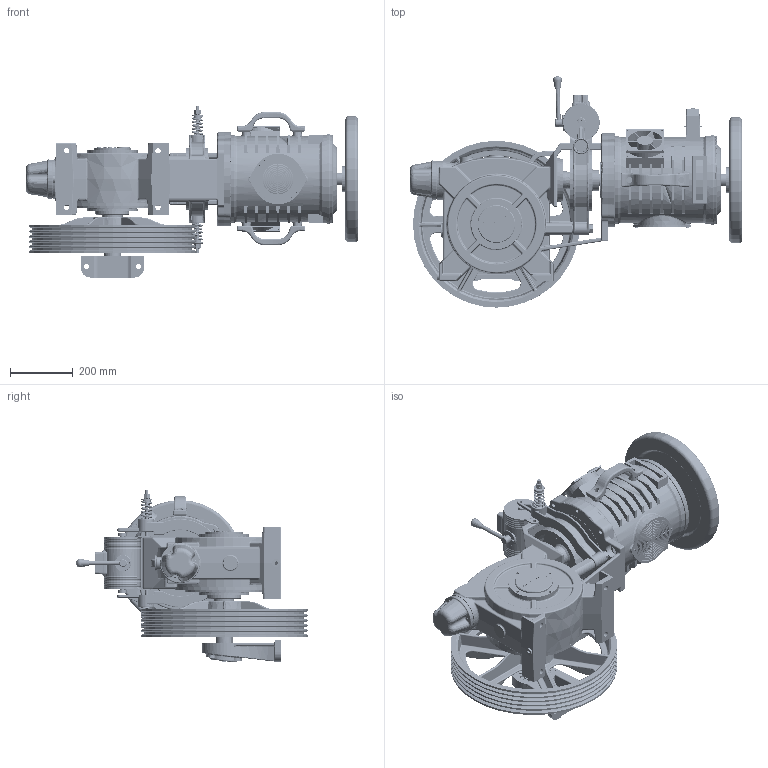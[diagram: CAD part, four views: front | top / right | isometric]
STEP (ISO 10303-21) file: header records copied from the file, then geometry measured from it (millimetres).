
FILE_DESCRIPTION (( 'STEP AP214' ), '1' );
FILE_NAME ('ELTC75100.STEP', '2026-01-19T13:11:59', ( '' ), ( '' ), 'SwSTEP 2.0', 'SolidWorks 2023', '' );
FILE_SCHEMA (( 'AUTOMOTIVE_DESIGN' ));
Length unit declared in the file: millimetre
Products named in the file (1): ELTC75100
Bounding box: 1054.98 x 734.43 x 549.28 mm (x, y, z)
Volume: 51289608.6 mm3; surface area: 5508313.4 mm2
Topology: 134 solids, 154 shells, 6787 faces, 16408 edges, 9936 vertices
Faces by surface type: cylinder 2309, plane 1765, bspline 1131, torus 781, cone 584, sphere 217
Entity records: 268349 total; most frequent: CARTESIAN_POINT 114868, ORIENTED_EDGE 32286, DIRECTION 31412, EDGE_CURVE 16143, AXIS2_PLACEMENT_3D 12876, VERTEX_POINT 9924, EDGE_LOOP 7683, CIRCLE 7219
